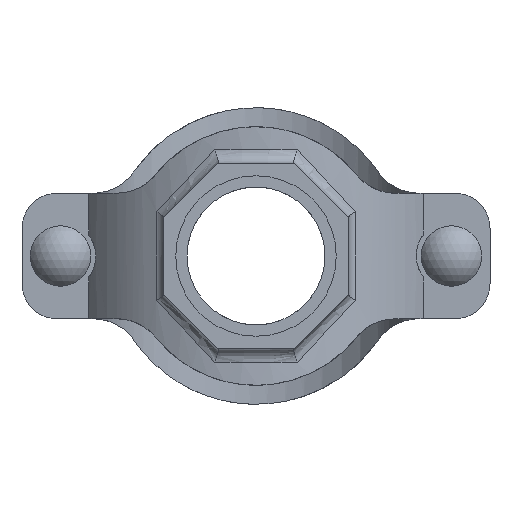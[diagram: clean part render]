
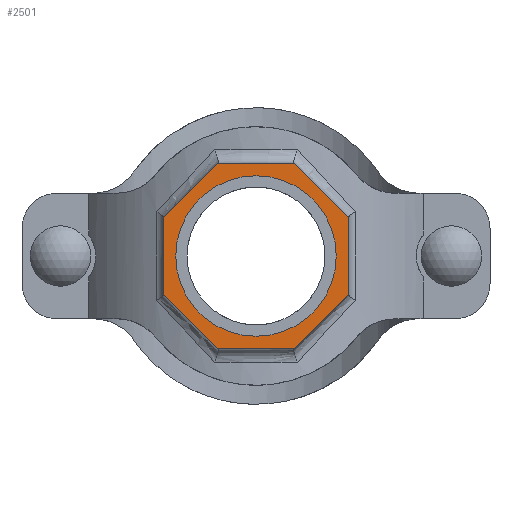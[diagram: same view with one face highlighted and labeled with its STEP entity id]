
A CAD part, front view. The second image highlights one B-rep face of the part: STEP entity #2501.
In plain terms, the highlighted planar face has unit normal (0, -1, 0) as drawn and (0, 1, 0) by its records, which use the part's own axes.
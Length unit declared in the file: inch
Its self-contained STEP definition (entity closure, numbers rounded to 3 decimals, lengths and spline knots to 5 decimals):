
#184=FACE_BOUND('',#455,.T.);
#303=FACE_OUTER_BOUND('',#454,.T.);
#454=EDGE_LOOP('',(#2126,#2127,#2128,#2129,#2130,#2131,#2132,#2133));
#455=EDGE_LOOP('',(#2134));
#584=LINE('',#4705,#768);
#587=LINE('',#4710,#771);
#589=LINE('',#4714,#773);
#591=LINE('',#4718,#775);
#635=LINE('',#5159,#819);
#637=LINE('',#5163,#821);
#639=LINE('',#5167,#823);
#641=LINE('',#5170,#825);
#768=VECTOR('',#3224,0.3937);
#771=VECTOR('',#3229,0.3937);
#773=VECTOR('',#3233,0.3937);
#775=VECTOR('',#3237,0.3937);
#819=VECTOR('',#3389,0.3937);
#821=VECTOR('',#3393,0.3937);
#823=VECTOR('',#3397,0.3937);
#825=VECTOR('',#3401,0.3937);
#909=CIRCLE('',#2764,1.4375);
#1079=VERTEX_POINT('',#4702);
#1080=VERTEX_POINT('',#4704);
#1081=VERTEX_POINT('',#4708);
#1082=VERTEX_POINT('',#4712);
#1083=VERTEX_POINT('',#4716);
#1126=VERTEX_POINT('',#5008);
#1148=VERTEX_POINT('',#5158);
#1149=VERTEX_POINT('',#5162);
#1150=VERTEX_POINT('',#5166);
#1384=EDGE_CURVE('',#1080,#1079,#584,.T.);
#1387=EDGE_CURVE('',#1079,#1081,#587,.T.);
#1389=EDGE_CURVE('',#1081,#1082,#589,.T.);
#1391=EDGE_CURVE('',#1082,#1083,#591,.T.);
#1447=EDGE_CURVE('',#1126,#1126,#909,.T.);
#1479=EDGE_CURVE('',#1148,#1080,#635,.T.);
#1481=EDGE_CURVE('',#1149,#1148,#637,.T.);
#1483=EDGE_CURVE('',#1150,#1149,#639,.T.);
#1485=EDGE_CURVE('',#1083,#1150,#641,.T.);
#2126=ORIENTED_EDGE('',*,*,#1485,.T.);
#2127=ORIENTED_EDGE('',*,*,#1483,.T.);
#2128=ORIENTED_EDGE('',*,*,#1481,.T.);
#2129=ORIENTED_EDGE('',*,*,#1479,.T.);
#2130=ORIENTED_EDGE('',*,*,#1384,.T.);
#2131=ORIENTED_EDGE('',*,*,#1387,.T.);
#2132=ORIENTED_EDGE('',*,*,#1389,.T.);
#2133=ORIENTED_EDGE('',*,*,#1391,.T.);
#2134=ORIENTED_EDGE('',*,*,#1447,.T.);
#2246=PLANE('',#2787);
#2501=ADVANCED_FACE('',(#303,#184),#2246,.T.);
#2764=AXIS2_PLACEMENT_3D('',#5009,#3333,#3334);
#2787=AXIS2_PLACEMENT_3D('',#5171,#3402,#3403);
#3224=DIRECTION('',(0.,0.,1.));
#3229=DIRECTION('',(0.707,0.,0.707));
#3233=DIRECTION('',(1.,0.,0.));
#3237=DIRECTION('',(0.707,0.,-0.707));
#3333=DIRECTION('center_axis',(0.,-1.,0.));
#3334=DIRECTION('ref_axis',(-1.,0.,0.));
#3389=DIRECTION('',(-0.707,0.,0.707));
#3393=DIRECTION('',(-1.,0.,0.));
#3397=DIRECTION('',(-0.707,0.,-0.707));
#3401=DIRECTION('',(0.,0.,-1.));
#3402=DIRECTION('center_axis',(0.,1.,0.));
#3403=DIRECTION('ref_axis',(0.,0.,1.));
#4702=CARTESIAN_POINT('',(-1.65625,4.75,0.68604));
#4704=CARTESIAN_POINT('',(-1.65625,4.75,-0.68604));
#4705=CARTESIAN_POINT('',(-1.65625,4.75,0.68604));
#4708=CARTESIAN_POINT('',(-0.68604,4.75,1.65625));
#4710=CARTESIAN_POINT('',(-0.68604,4.75,1.65625));
#4712=CARTESIAN_POINT('',(0.68604,4.75,1.65625));
#4714=CARTESIAN_POINT('',(0.68604,4.75,1.65625));
#4716=CARTESIAN_POINT('',(1.65625,4.75,0.68604));
#4718=CARTESIAN_POINT('',(1.65625,4.75,0.68604));
#5008=CARTESIAN_POINT('',(1.4375,4.75,0.));
#5009=CARTESIAN_POINT('Origin',(0.,4.75,0.));
#5158=CARTESIAN_POINT('',(-0.68604,4.75,-1.65625));
#5159=CARTESIAN_POINT('',(-1.65625,4.75,-0.68604));
#5162=CARTESIAN_POINT('',(0.68604,4.75,-1.65625));
#5163=CARTESIAN_POINT('',(-0.68604,4.75,-1.65625));
#5166=CARTESIAN_POINT('',(1.65625,4.75,-0.68604));
#5167=CARTESIAN_POINT('',(0.68604,4.75,-1.65625));
#5170=CARTESIAN_POINT('',(1.65625,4.75,-0.68604));
#5171=CARTESIAN_POINT('Origin',(0.,4.75,0.));
